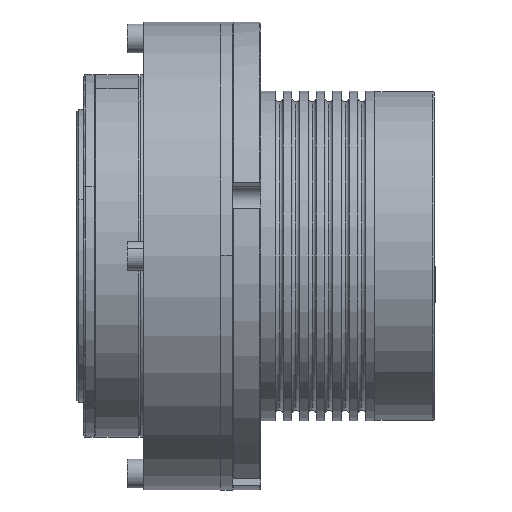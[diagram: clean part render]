
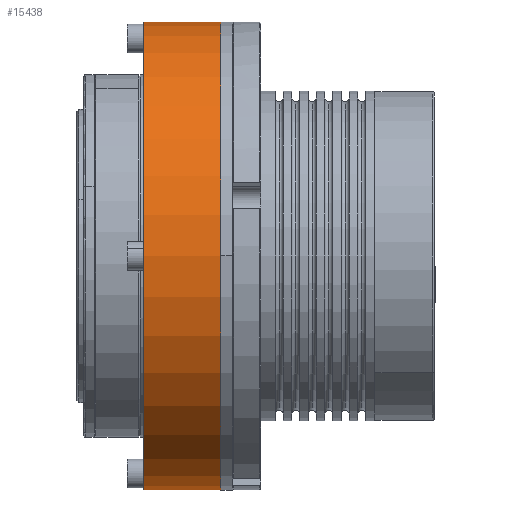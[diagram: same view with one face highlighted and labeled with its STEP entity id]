
A CAD part, left-side view. The second image highlights one B-rep face of the part: STEP entity #15438.
In plain terms, the highlighted cylindrical face has radius 71 mm (diameter 142 mm), a partial arc.
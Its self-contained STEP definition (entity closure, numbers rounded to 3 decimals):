
#80 = ORIENTED_EDGE ( 'NONE', *, *, #4721, .F. ) ;
#135 = LINE ( 'NONE', #14736, #15993 ) ;
#260 = CARTESIAN_POINT ( 'NONE',  ( 0., 23.4, 0. ) ) ;
#815 = FACE_OUTER_BOUND ( 'NONE', #1246, .T. ) ;
#1039 = EDGE_CURVE ( 'NONE', #3530, #25948, #8045, .T. ) ;
#1246 = EDGE_LOOP ( 'NONE', ( #80, #15024, #7045, #24879 ) ) ;
#1668 = CARTESIAN_POINT ( 'NONE',  ( 0., 23.4, 0. ) ) ;
#3530 = VERTEX_POINT ( 'NONE', #5013 ) ;
#4257 = DIRECTION ( 'NONE',  ( 0., -1., 0. ) ) ;
#4506 = CARTESIAN_POINT ( 'NONE',  ( 0., 23.4, 71. ) ) ;
#4721 = EDGE_CURVE ( 'NONE', #25948, #21355, #8696, .T. ) ;
#5013 = CARTESIAN_POINT ( 'NONE',  ( 0., 23.4, -71. ) ) ;
#6216 = DIRECTION ( 'NONE',  ( 0., -1., 0. ) ) ;
#7045 = ORIENTED_EDGE ( 'NONE', *, *, #19483, .T. ) ;
#8045 = CIRCLE ( 'NONE', #14645, 71. ) ;
#8696 = LINE ( 'NONE', #25495, #25016 ) ;
#9854 = EDGE_CURVE ( 'NONE', #27188, #21355, #24777, .T. ) ;
#11291 = DIRECTION ( 'NONE',  ( 0., 1., 0. ) ) ;
#13344 = CARTESIAN_POINT ( 'NONE',  ( 0., 0., 0. ) ) ;
#14645 = AXIS2_PLACEMENT_3D ( 'NONE', #1668, #18469, #16538 ) ;
#14736 = CARTESIAN_POINT ( 'NONE',  ( 0., 23.4, -71. ) ) ;
#15024 = ORIENTED_EDGE ( 'NONE', *, *, #1039, .F. ) ;
#15438 = ADVANCED_FACE ( 'NONE', ( #815 ), #19123, .T. ) ;
#15860 = AXIS2_PLACEMENT_3D ( 'NONE', #260, #21464, #19256 ) ;
#15993 = VECTOR ( 'NONE', #4257, 1000. ) ;
#16538 = DIRECTION ( 'NONE',  ( 0., 0., 1. ) ) ;
#16854 = AXIS2_PLACEMENT_3D ( 'NONE', #13344, #11291, #19675 ) ;
#18469 = DIRECTION ( 'NONE',  ( 0., 1., 0. ) ) ;
#19123 = CYLINDRICAL_SURFACE ( 'NONE', #15860, 71. ) ;
#19256 = DIRECTION ( 'NONE',  ( 0., 0., -1. ) ) ;
#19483 = EDGE_CURVE ( 'NONE', #3530, #27188, #135, .T. ) ;
#19675 = DIRECTION ( 'NONE',  ( 0., 0., 1. ) ) ;
#20193 = CARTESIAN_POINT ( 'NONE',  ( 0., 0., 71. ) ) ;
#21355 = VERTEX_POINT ( 'NONE', #20193 ) ;
#21464 = DIRECTION ( 'NONE',  ( 0., -1., 0. ) ) ;
#23647 = CARTESIAN_POINT ( 'NONE',  ( 0., 0., -71. ) ) ;
#24777 = CIRCLE ( 'NONE', #16854, 71. ) ;
#24879 = ORIENTED_EDGE ( 'NONE', *, *, #9854, .T. ) ;
#25016 = VECTOR ( 'NONE', #6216, 1000. ) ;
#25495 = CARTESIAN_POINT ( 'NONE',  ( 0., 23.4, 71. ) ) ;
#25948 = VERTEX_POINT ( 'NONE', #4506 ) ;
#27188 = VERTEX_POINT ( 'NONE', #23647 ) ;
